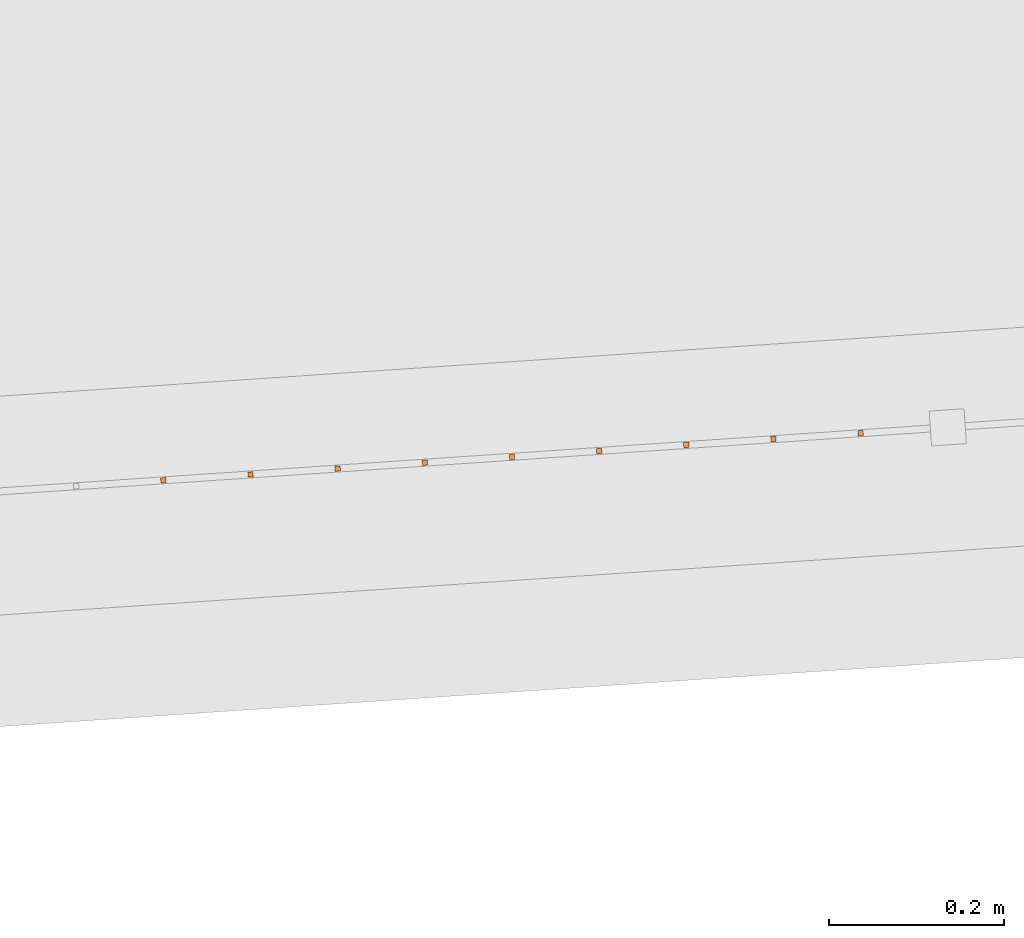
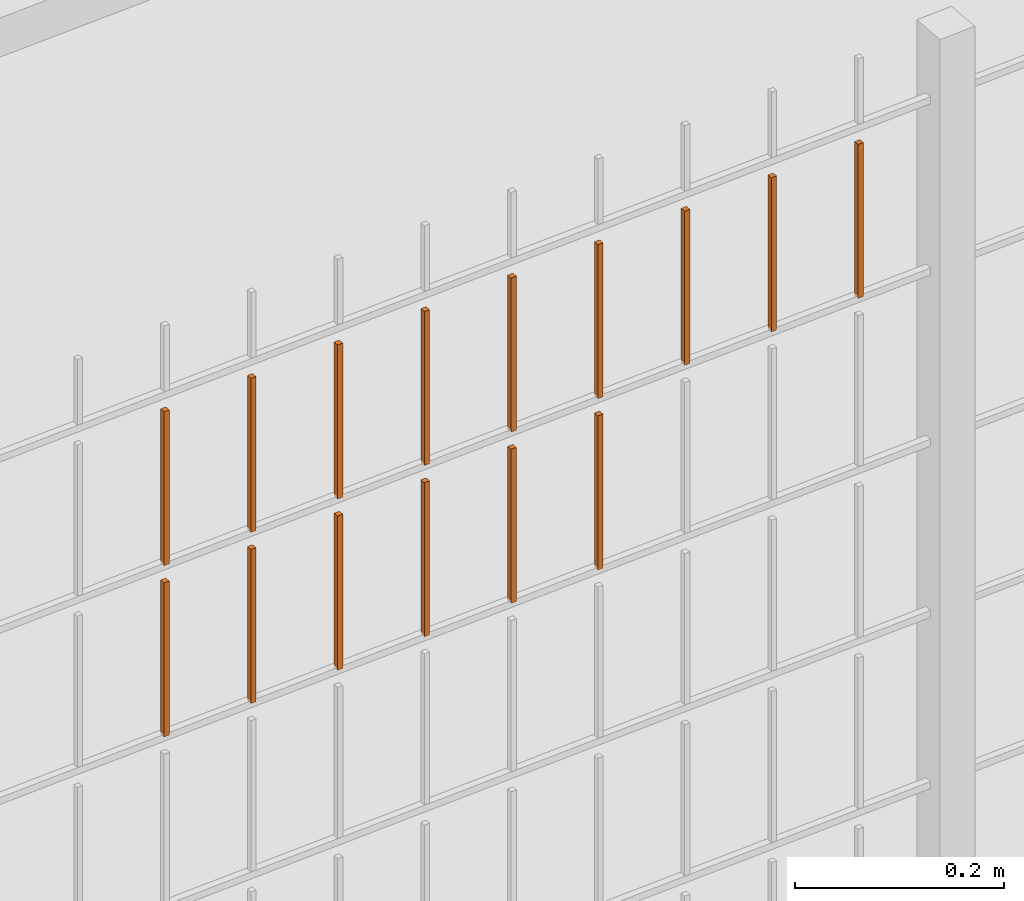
# One storey, part 276 of 1809: 15 proxies, 1 element without a shape of its own.
"""IFC2X3 building model written with IfcOpenShell, lengths in millimetres."""

from ifc_helpers import new_model, entity, si_unit, converted_unit, derived_unit, money_unit, direction, frame, origin_with_axes, place, context, subcontext, project, spatial, faceted_brep, source, transform, mapped, material, type_object, element, aggregate, save


model = new_model("IFC2X3")

# Units and contexts
model_context = context("Model", 3, precision=0.01, world=origin_with_axes(), true_north=direction((0.0, 1.0)))
body_context = subcontext(model_context, "Body", "Model", "MODEL_VIEW")
ifc_project = project(units=[si_unit("LENGTHUNIT", "METRE", prefix="MILLI"), si_unit("AREAUNIT", "SQUARE_METRE"), si_unit("VOLUMEUNIT", "CUBIC_METRE"), converted_unit("PLANEANGLEUNIT", "DEGREE", entity("IfcPlaneAngleMeasure", 0.0174532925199), si_unit("PLANEANGLEUNIT", "RADIAN"), dimensions=[0, 0, 0, 0, 0, 0, 0]), si_unit("SOLIDANGLEUNIT", "STERADIAN"), money_unit("EUR"), converted_unit("TIMEUNIT", "Year", entity("IfcTimeMeasure", 31556926.0), si_unit("TIMEUNIT", "SECOND"), dimensions=[0, 0, 1, 0, 0, 0, 0]), si_unit("MASSUNIT", "GRAM", prefix="KILO"), si_unit("THERMODYNAMICTEMPERATUREUNIT", "DEGREE_CELSIUS"), si_unit("LUMINOUSINTENSITYUNIT", "LUMEN"), si_unit("ENERGYUNIT", "JOULE", prefix="MEGA"), derived_unit("THERMALCONDUCTANCEUNIT", [(si_unit("POWERUNIT", "WATT"), 1), (si_unit("LENGTHUNIT", "METRE"), -1), (si_unit("THERMODYNAMICTEMPERATUREUNIT", "KELVIN"), -1)]), derived_unit("SPECIFICHEATCAPACITYUNIT", [(si_unit("ENERGYUNIT", "JOULE"), 1), (si_unit("MASSUNIT", "GRAM", prefix="KILO"), -1), (si_unit("THERMODYNAMICTEMPERATUREUNIT", "KELVIN"), -1)]), derived_unit("MASSDENSITYUNIT", [(si_unit("MASSUNIT", "GRAM", prefix="KILO"), 1), (si_unit("VOLUMEUNIT", "CUBIC_METRE"), -1)])], contexts=[model_context])

# Site, building, storey
site_placement = place(None, origin_with_axes())
site = spatial("IfcSite", under=ifc_project, at=site_placement, Name="Politse- ja Piirivalveameti ning Päästeameti ühishoone", CompositionType="ELEMENT")
building_placement = place(site_placement, origin_with_axes())
building = spatial("IfcBuilding", under=site, at=building_placement, Name="Politse- ja Piirivalveameti ning Päästeameti ühishoone", CompositionType="ELEMENT")
storey_placement = place(building_placement, origin_with_axes())
storey = spatial("IfcBuildingStorey", under=building, at=storey_placement, Name="Esimene korrus", CompositionType="ELEMENT", Elevation=0.0)

# Proxies
building_element_proxy_type_1 = type_object("IfcBuildingElementProxyType", Name="Railing Type", PredefinedType="NOTDEFINED")
proxy_1_placement = place(storey_placement, frame((89252.001212, -29183.4766571, 203.661247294), z_axis=(0.0, 0.0, 1.0), x_axis=(1.0, 0.0, 0.0)))
proxy_1 = element("IfcBuildingElementProxy", 1, at=proxy_1_placement, inside=storey, type_object=building_element_proxy_type_1, Name="PIIRDEAED")
ifc_material = material(Name="ET-03_Raud")
building_element_proxy_type_2 = type_object("IfcBuildingElementProxyType", Name="IfcBuildingElementProxy", PredefinedType="NOTDEFINED")
shared_shape_1 = source(origin_with_axes(), body_context, "Body", "Brep", [
    faceted_brep([(3.0, 3.0, -0.000752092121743), (-3.0, 3.0, -0.000752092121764), (-3.0, 3.0, 179.99926046), (3.0, 3.0, 179.99926046), (3.0, -3.0, 0.000752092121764), (-3.0, -3.0, 0.000752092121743), (-3.0, -3.0, 180.000764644), (3.0, -3.0, 180.000764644)], [[[0, 1, 2, 3]], [[0, 4, 5, 1]], [[1, 5, 6, 2]], [[3, 2, 6, 7]], [[4, 0, 3, 7]], [[5, 4, 7, 6]]]),
])
proxy_2_placement = place(proxy_1_placement, frame((-52606.8154385, -20851.1666135, 1614.0159433), z_axis=(0.0, 0.0, 1.0), x_axis=(1.0, 0.0, 0.0)))
proxy_2 = element("IfcBuildingElementProxy", 2, at=proxy_2_placement, type_object=building_element_proxy_type_2, material=ifc_material, Name="BALUSTER - 001", context=body_context, shape_type="MappedRepresentation", body=[
    mapped(shared_shape_1, transform((0.0, 0.0, 0.0), x_axis=(-0.0673926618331, 0.997726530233, 0.0), y_axis=(-0.997726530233, -0.0673926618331, 0.0), z_axis=(0.0, 0.0, 1.0))),
])
shared_shape_2 = source(origin_with_axes(), body_context, "Body", "Brep", [
    faceted_brep([(3.0, 3.0, -0.000752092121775), (-3.0, 3.0, -0.000752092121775), (-3.0, 3.0, 179.99926046), (3.0, 3.0, 179.99926046), (3.0, -3.0, 0.000752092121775), (-3.0, -3.0, 0.000752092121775), (-3.0, -3.0, 180.000764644), (3.0, -3.0, 180.000764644)], [[[0, 1, 2, 3]], [[0, 4, 5, 1]], [[1, 5, 6, 2]], [[3, 2, 6, 7]], [[4, 0, 3, 7]], [[5, 4, 7, 6]]]),
])
proxy_3_placement = place(proxy_1_placement, frame((-52307.4974794, -20830.948815, 1814.09115251), z_axis=(0.0, 0.0, 1.0), x_axis=(1.0, 0.0, 0.0)))
proxy_3 = element("IfcBuildingElementProxy", 3, at=proxy_3_placement, type_object=building_element_proxy_type_2, material=ifc_material, Name="BALUSTER - 001", context=body_context, shape_type="MappedRepresentation", body=[
    mapped(shared_shape_2, transform((0.0, 0.0, 0.0), x_axis=(-0.0673926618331, 0.997726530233, 0.0), y_axis=(-0.997726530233, -0.0673926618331, 0.0), z_axis=(0.0, 0.0, 1.0))),
])
shared_shape_3 = source(origin_with_axes(), body_context, "Body", "Brep", [
    faceted_brep([(3.0, 3.0, -0.000752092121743), (-3.0, 3.0, -0.000752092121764), (-3.0, 3.0, 179.99926046), (3.0, 3.0, 179.99926046), (3.0, -3.0, 0.000752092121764), (-3.0, -3.0, 0.000752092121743), (-3.0, -3.0, 180.000764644), (3.0, -3.0, 180.000764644)], [[[0, 1, 2, 3]], [[0, 4, 5, 1]], [[1, 5, 6, 2]], [[3, 2, 6, 7]], [[4, 0, 3, 7]], [[5, 4, 7, 6]]]),
])
proxy_4_placement = place(proxy_1_placement, frame((-52606.8154385, -20851.1666135, 1814.0159433), z_axis=(0.0, 0.0, 1.0), x_axis=(1.0, 0.0, 0.0)))
proxy_4 = element("IfcBuildingElementProxy", 4, at=proxy_4_placement, type_object=building_element_proxy_type_2, material=ifc_material, Name="BALUSTER - 001", context=body_context, shape_type="MappedRepresentation", body=[
    mapped(shared_shape_3, transform((0.0, 0.0, 0.0), x_axis=(-0.0673926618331, 0.997726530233, 0.0), y_axis=(-0.997726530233, -0.0673926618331, 0.0), z_axis=(0.0, 0.0, 1.0))),
])
shared_shape_4 = source(origin_with_axes(), body_context, "Body", "Brep", [
    faceted_brep([(3.0, 3.0, -0.000752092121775), (-3.0, 3.0, -0.000752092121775), (-3.0, 3.0, 179.99926046), (3.0, 3.0, 179.99926046), (3.0, -3.0, 0.000752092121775), (-3.0, -3.0, 0.000752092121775), (-3.0, -3.0, 180.000764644), (3.0, -3.0, 180.000764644)], [[[0, 1, 2, 3]], [[0, 4, 5, 1]], [[1, 5, 6, 2]], [[3, 2, 6, 7]], [[4, 0, 3, 7]], [[5, 4, 7, 6]]]),
])
proxy_5_placement = place(proxy_1_placement, frame((-52706.5880915, -20857.9058797, 1813.99087356), z_axis=(0.0, 0.0, 1.0), x_axis=(1.0, 0.0, 0.0)))
proxy_5 = element("IfcBuildingElementProxy", 5, at=proxy_5_placement, type_object=building_element_proxy_type_2, material=ifc_material, Name="BALUSTER - 001", context=body_context, shape_type="MappedRepresentation", body=[
    mapped(shared_shape_4, transform((0.0, 0.0, 0.0), x_axis=(-0.0673926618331, 0.997726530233, 0.0), y_axis=(-0.997726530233, -0.0673926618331, 0.0), z_axis=(0.0, 0.0, 1.0))),
])
shared_shape_5 = source(origin_with_axes(), body_context, "Body", "Brep", [
    faceted_brep([(3.0, 3.0, -0.000752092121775), (-3.0, 3.0, -0.000752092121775), (-3.0, 3.0, 179.99926046), (3.0, 3.0, 179.99926046), (3.0, -3.0, 0.000752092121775), (-3.0, -3.0, 0.000752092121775), (-3.0, -3.0, 180.000764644), (3.0, -3.0, 180.000764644)], [[[0, 1, 2, 3]], [[0, 4, 5, 1]], [[1, 5, 6, 2]], [[3, 2, 6, 7]], [[4, 0, 3, 7]], [[5, 4, 7, 6]]]),
])
proxy_6_placement = place(proxy_1_placement, frame((-52706.5880915, -20857.9058797, 1613.99087356), z_axis=(0.0, 0.0, 1.0), x_axis=(1.0, 0.0, 0.0)))
proxy_6 = element("IfcBuildingElementProxy", 6, at=proxy_6_placement, type_object=building_element_proxy_type_2, material=ifc_material, Name="BALUSTER - 001", context=body_context, shape_type="MappedRepresentation", body=[
    mapped(shared_shape_5, transform((0.0, 0.0, 0.0), x_axis=(-0.0673926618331, 0.997726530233, 0.0), y_axis=(-0.997726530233, -0.0673926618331, 0.0), z_axis=(0.0, 0.0, 1.0))),
])
shared_shape_6 = source(origin_with_axes(), body_context, "Body", "Brep", [
    faceted_brep([(3.0, 3.0, -0.000752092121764), (-3.0, 3.0, -0.000752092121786), (-3.0, 3.0, 179.99926046), (3.0, 3.0, 179.99926046), (3.0, -3.0, 0.000752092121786), (-3.0, -3.0, 0.000752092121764), (-3.0, -3.0, 180.000764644), (3.0, -3.0, 180.000764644)], [[[0, 1, 2, 3]], [[0, 4, 5, 1]], [[1, 5, 6, 2]], [[3, 2, 6, 7]], [[4, 0, 3, 7]], [[5, 4, 7, 6]]]),
])
proxy_7_placement = place(proxy_1_placement, frame((-52407.2701324, -20837.6880811, 1814.06608278), z_axis=(0.0, 0.0, 1.0), x_axis=(1.0, 0.0, 0.0)))
proxy_7 = element("IfcBuildingElementProxy", 7, at=proxy_7_placement, type_object=building_element_proxy_type_2, material=ifc_material, Name="BALUSTER - 001", context=body_context, shape_type="MappedRepresentation", body=[
    mapped(shared_shape_6, transform((0.0, 0.0, 0.0), x_axis=(-0.0673926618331, 0.997726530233, 0.0), y_axis=(-0.997726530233, -0.0673926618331, 0.0), z_axis=(0.0, 0.0, 1.0))),
])
shared_shape_7 = source(origin_with_axes(), body_context, "Body", "Brep", [
    faceted_brep([(3.0, 3.0, -0.000752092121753), (-3.0, 3.0, -0.000752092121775), (-3.0, 3.0, 179.99926046), (3.0, 3.0, 179.99926046), (3.0, -3.0, 0.000752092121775), (-3.0, -3.0, 0.000752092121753), (-3.0, -3.0, 180.000764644), (3.0, -3.0, 180.000764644)], [[[0, 1, 2, 3]], [[0, 4, 5, 1]], [[1, 5, 6, 2]], [[3, 2, 6, 7]], [[4, 0, 3, 7]], [[5, 4, 7, 6]]]),
])
proxy_8_placement = place(proxy_1_placement, frame((-53005.9060506, -20878.1236782, 1813.91566435), z_axis=(0.0, 0.0, 1.0), x_axis=(1.0, 0.0, 0.0)))
proxy_8 = element("IfcBuildingElementProxy", 8, at=proxy_8_placement, type_object=building_element_proxy_type_2, material=ifc_material, Name="BALUSTER - 001", context=body_context, shape_type="MappedRepresentation", body=[
    mapped(shared_shape_7, transform((0.0, 0.0, 0.0), x_axis=(-0.0673926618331, 0.997726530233, 0.0), y_axis=(-0.997726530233, -0.0673926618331, 0.0), z_axis=(0.0, 0.0, 1.0))),
])
shared_shape_8 = source(origin_with_axes(), body_context, "Body", "Brep", [
    faceted_brep([(3.0, 3.0, -0.000752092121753), (-3.0, 3.0, -0.000752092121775), (-3.0, 3.0, 179.99926046), (3.0, 3.0, 179.99926046), (3.0, -3.0, 0.000752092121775), (-3.0, -3.0, 0.000752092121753), (-3.0, -3.0, 180.000764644), (3.0, -3.0, 180.000764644)], [[[0, 1, 2, 3]], [[0, 4, 5, 1]], [[1, 5, 6, 2]], [[3, 2, 6, 7]], [[4, 0, 3, 7]], [[5, 4, 7, 6]]]),
])
proxy_9_placement = place(proxy_1_placement, frame((-53005.9060506, -20878.1236782, 1613.91566435), z_axis=(0.0, 0.0, 1.0), x_axis=(1.0, 0.0, 0.0)))
proxy_9 = element("IfcBuildingElementProxy", 9, at=proxy_9_placement, type_object=building_element_proxy_type_2, material=ifc_material, Name="BALUSTER - 001", context=body_context, shape_type="MappedRepresentation", body=[
    mapped(shared_shape_8, transform((0.0, 0.0, 0.0), x_axis=(-0.0673926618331, 0.997726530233, 0.0), y_axis=(-0.997726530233, -0.0673926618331, 0.0), z_axis=(0.0, 0.0, 1.0))),
])
shared_shape_9 = source(origin_with_axes(), body_context, "Body", "Brep", [
    faceted_brep([(3.0, 3.0, -0.000752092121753), (-3.0, 3.0, -0.000752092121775), (-3.0, 3.0, 179.99926046), (3.0, 3.0, 179.99926046), (3.0, -3.0, 0.000752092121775), (-3.0, -3.0, 0.000752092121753), (-3.0, -3.0, 180.000764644), (3.0, -3.0, 180.000764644)], [[[0, 1, 2, 3]], [[0, 4, 5, 1]], [[1, 5, 6, 2]], [[3, 2, 6, 7]], [[4, 0, 3, 7]], [[5, 4, 7, 6]]]),
])
proxy_10_placement = place(proxy_1_placement, frame((-53105.6787036, -20884.8629444, 1613.89059461), z_axis=(0.0, 0.0, 1.0), x_axis=(1.0, 0.0, 0.0)))
proxy_10 = element("IfcBuildingElementProxy", 10, at=proxy_10_placement, type_object=building_element_proxy_type_2, material=ifc_material, Name="BALUSTER - 001", context=body_context, shape_type="MappedRepresentation", body=[
    mapped(shared_shape_9, transform((0.0, 0.0, 0.0), x_axis=(-0.0673926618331, 0.997726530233, 0.0), y_axis=(-0.997726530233, -0.0673926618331, 0.0), z_axis=(0.0, 0.0, 1.0))),
])
shared_shape_10 = source(origin_with_axes(), body_context, "Body", "Brep", [
    faceted_brep([(3.0, 3.0, -0.000752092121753), (-3.0, 3.0, -0.000752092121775), (-3.0, 3.0, 179.99926046), (3.0, 3.0, 179.99926046), (3.0, -3.0, 0.000752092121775), (-3.0, -3.0, 0.000752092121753), (-3.0, -3.0, 180.000764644), (3.0, -3.0, 180.000764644)], [[[0, 1, 2, 3]], [[0, 4, 5, 1]], [[1, 5, 6, 2]], [[3, 2, 6, 7]], [[4, 0, 3, 7]], [[5, 4, 7, 6]]]),
])
proxy_11_placement = place(proxy_1_placement, frame((-53105.6787036, -20884.8629444, 1813.89059461), z_axis=(0.0, 0.0, 1.0), x_axis=(1.0, 0.0, 0.0)))
proxy_11 = element("IfcBuildingElementProxy", 11, at=proxy_11_placement, type_object=building_element_proxy_type_2, material=ifc_material, Name="BALUSTER - 001", context=body_context, shape_type="MappedRepresentation", body=[
    mapped(shared_shape_10, transform((0.0, 0.0, 0.0), x_axis=(-0.0673926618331, 0.997726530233, 0.0), y_axis=(-0.997726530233, -0.0673926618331, 0.0), z_axis=(0.0, 0.0, 1.0))),
])
shared_shape_11 = source(origin_with_axes(), body_context, "Body", "Brep", [
    faceted_brep([(3.0, 3.0, -0.000752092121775), (-3.0, 3.0, -0.000752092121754), (-3.0, 3.0, 179.99926046), (3.0, 3.0, 179.99926046), (3.0, -3.0, 0.000752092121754), (-3.0, -3.0, 0.000752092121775), (-3.0, -3.0, 180.000764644), (3.0, -3.0, 180.000764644)], [[[0, 1, 2, 3]], [[0, 4, 5, 1]], [[1, 5, 6, 2]], [[3, 2, 6, 7]], [[4, 0, 3, 7]], [[5, 4, 7, 6]]]),
])
proxy_12_placement = place(proxy_1_placement, frame((-52906.1333975, -20871.3844121, 1613.94073409), z_axis=(0.0, 0.0, 1.0), x_axis=(1.0, 0.0, 0.0)))
proxy_12 = element("IfcBuildingElementProxy", 12, at=proxy_12_placement, type_object=building_element_proxy_type_2, material=ifc_material, Name="BALUSTER - 001", context=body_context, shape_type="MappedRepresentation", body=[
    mapped(shared_shape_11, transform((0.0, 0.0, 0.0), x_axis=(-0.0673926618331, 0.997726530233, 0.0), y_axis=(-0.997726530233, -0.0673926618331, 0.0), z_axis=(0.0, 0.0, 1.0))),
])
shared_shape_12 = source(origin_with_axes(), body_context, "Body", "Brep", [
    faceted_brep([(3.0, 3.0, -0.000752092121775), (-3.0, 3.0, -0.000752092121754), (-3.0, 3.0, 179.99926046), (3.0, 3.0, 179.99926046), (3.0, -3.0, 0.000752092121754), (-3.0, -3.0, 0.000752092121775), (-3.0, -3.0, 180.000764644), (3.0, -3.0, 180.000764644)], [[[0, 1, 2, 3]], [[0, 4, 5, 1]], [[1, 5, 6, 2]], [[3, 2, 6, 7]], [[4, 0, 3, 7]], [[5, 4, 7, 6]]]),
])
proxy_13_placement = place(proxy_1_placement, frame((-52906.1333975, -20871.3844121, 1813.94073409), z_axis=(0.0, 0.0, 1.0), x_axis=(1.0, 0.0, 0.0)))
proxy_13 = element("IfcBuildingElementProxy", 13, at=proxy_13_placement, type_object=building_element_proxy_type_2, material=ifc_material, Name="BALUSTER - 001", context=body_context, shape_type="MappedRepresentation", body=[
    mapped(shared_shape_12, transform((0.0, 0.0, 0.0), x_axis=(-0.0673926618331, 0.997726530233, 0.0), y_axis=(-0.997726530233, -0.0673926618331, 0.0), z_axis=(0.0, 0.0, 1.0))),
])
shared_shape_13 = source(origin_with_axes(), body_context, "Body", "Brep", [
    faceted_brep([(3.0, 3.0, -0.000752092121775), (-3.0, 3.0, -0.000752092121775), (-3.0, 3.0, 179.99926046), (3.0, 3.0, 179.99926046), (3.0, -3.0, 0.000752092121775), (-3.0, -3.0, 0.000752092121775), (-3.0, -3.0, 180.000764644), (3.0, -3.0, 180.000764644)], [[[0, 1, 2, 3]], [[0, 4, 5, 1]], [[1, 5, 6, 2]], [[3, 2, 6, 7]], [[4, 0, 3, 7]], [[5, 4, 7, 6]]]),
])
proxy_14_placement = place(proxy_1_placement, frame((-52507.0427854, -20844.4273473, 1814.04101304), z_axis=(0.0, 0.0, 1.0), x_axis=(1.0, 0.0, 0.0)))
proxy_14 = element("IfcBuildingElementProxy", 14, at=proxy_14_placement, type_object=building_element_proxy_type_2, material=ifc_material, Name="BALUSTER - 001", context=body_context, shape_type="MappedRepresentation", body=[
    mapped(shared_shape_13, transform((0.0, 0.0, 0.0), x_axis=(-0.0673926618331, 0.997726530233, 0.0), y_axis=(-0.997726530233, -0.0673926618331, 0.0), z_axis=(0.0, 0.0, 1.0))),
])
shared_shape_14 = source(origin_with_axes(), body_context, "Body", "Brep", [
    faceted_brep([(3.0, 3.0, -0.000752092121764), (-3.0, 3.0, -0.000752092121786), (-3.0, 3.0, 179.99926046), (3.0, 3.0, 179.99926046), (3.0, -3.0, 0.000752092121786), (-3.0, -3.0, 0.000752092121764), (-3.0, -3.0, 180.000764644), (3.0, -3.0, 180.000764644)], [[[0, 1, 2, 3]], [[0, 4, 5, 1]], [[1, 5, 6, 2]], [[3, 2, 6, 7]], [[4, 0, 3, 7]], [[5, 4, 7, 6]]]),
])
proxy_15_placement = place(proxy_1_placement, frame((-52806.3607445, -20864.6451459, 1813.96580383), z_axis=(0.0, 0.0, 1.0), x_axis=(1.0, 0.0, 0.0)))
proxy_15 = element("IfcBuildingElementProxy", 15, at=proxy_15_placement, type_object=building_element_proxy_type_2, material=ifc_material, Name="BALUSTER - 001", context=body_context, shape_type="MappedRepresentation", body=[
    mapped(shared_shape_14, transform((0.0, 0.0, 0.0), x_axis=(-0.0673926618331, 0.997726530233, 0.0), y_axis=(-0.997726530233, -0.0673926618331, 0.0), z_axis=(0.0, 0.0, 1.0))),
])
shared_shape_15 = source(origin_with_axes(), body_context, "Body", "Brep", [
    faceted_brep([(3.0, 3.0, -0.000752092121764), (-3.0, 3.0, -0.000752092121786), (-3.0, 3.0, 179.99926046), (3.0, 3.0, 179.99926046), (3.0, -3.0, 0.000752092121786), (-3.0, -3.0, 0.000752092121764), (-3.0, -3.0, 180.000764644), (3.0, -3.0, 180.000764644)], [[[0, 1, 2, 3]], [[0, 4, 5, 1]], [[1, 5, 6, 2]], [[3, 2, 6, 7]], [[4, 0, 3, 7]], [[5, 4, 7, 6]]]),
])
proxy_16_placement = place(proxy_1_placement, frame((-52806.3607445, -20864.6451459, 1613.96580383), z_axis=(0.0, 0.0, 1.0), x_axis=(1.0, 0.0, 0.0)))
proxy_16 = element("IfcBuildingElementProxy", 16, at=proxy_16_placement, type_object=building_element_proxy_type_2, material=ifc_material, Name="BALUSTER - 001", context=body_context, shape_type="MappedRepresentation", body=[
    mapped(shared_shape_15, transform((0.0, 0.0, 0.0), x_axis=(-0.0673926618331, 0.997726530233, 0.0), y_axis=(-0.997726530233, -0.0673926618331, 0.0), z_axis=(0.0, 0.0, 1.0))),
])
aggregate(proxy_1, [proxy_2, proxy_6, proxy_16, proxy_12, proxy_9, proxy_10, proxy_3, proxy_7, proxy_14, proxy_4, proxy_5, proxy_15, proxy_13, proxy_8, proxy_11])

save(model, "model.ifc")
